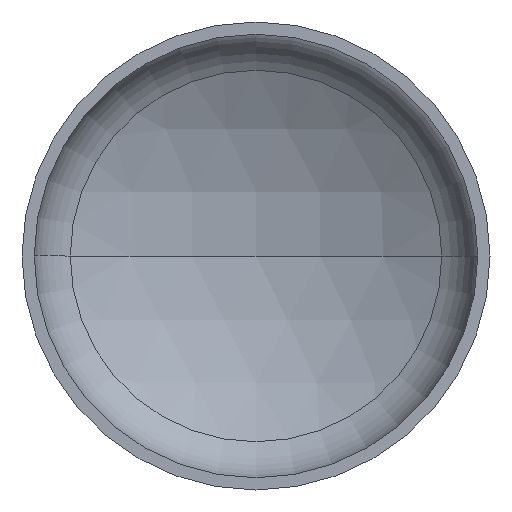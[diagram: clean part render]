
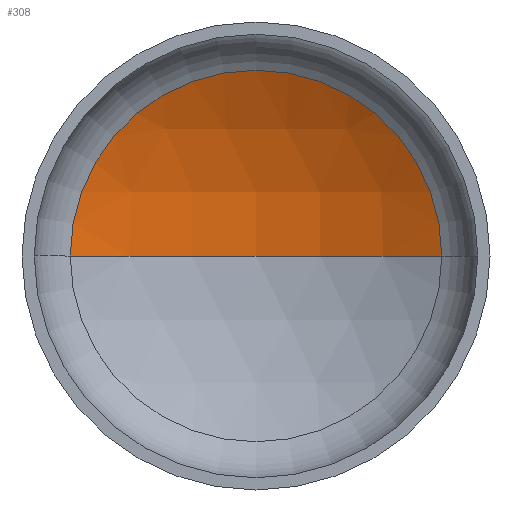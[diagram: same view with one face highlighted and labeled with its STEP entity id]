
A CAD part, front view. The second image highlights one B-rep face of the part: STEP entity #308.
In plain terms, the highlighted spherical face has radius 1440 mm.
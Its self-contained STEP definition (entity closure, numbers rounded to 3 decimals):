
#1 = SPHERICAL_SURFACE ( 'NONE', #57, 1440. ) ;
#4 = VERTEX_POINT ( 'NONE', #252 ) ;
#14 = AXIS2_PLACEMENT_3D ( 'NONE', #297, #153, #322 ) ;
#15 = AXIS2_PLACEMENT_3D ( 'NONE', #203, #334, #307 ) ;
#21 = EDGE_LOOP ( 'NONE', ( #47, #44, #404 ) ) ;
#44 = ORIENTED_EDGE ( 'NONE', *, *, #378, .T. ) ;
#47 = ORIENTED_EDGE ( 'NONE', *, *, #364, .F. ) ;
#57 = AXIS2_PLACEMENT_3D ( 'NONE', #249, #256, #255 ) ;
#82 = VERTEX_POINT ( 'NONE', #240 ) ;
#131 = VERTEX_POINT ( 'NONE', #287 ) ;
#152 = CIRCLE ( 'NONE', #15, 1440. ) ;
#153 = DIRECTION ( 'NONE',  ( 0., 0., -1. ) ) ;
#203 = CARTESIAN_POINT ( 'NONE',  ( 0., -861.504, 0. ) ) ;
#228 = DIRECTION ( 'NONE',  ( 0., -1., 0. ) ) ;
#240 = CARTESIAN_POINT ( 'NONE',  ( -714.438, 388.767, 0. ) ) ;
#249 = CARTESIAN_POINT ( 'NONE',  ( 0., -861.504, 0. ) ) ;
#252 = CARTESIAN_POINT ( 'NONE',  ( 714.438, 388.767, 0. ) ) ;
#255 = DIRECTION ( 'NONE',  ( -1., 0., 0. ) ) ;
#256 = DIRECTION ( 'NONE',  ( 0., 0., -1. ) ) ;
#287 = CARTESIAN_POINT ( 'NONE',  ( 0., 578.496, 0. ) ) ;
#297 = CARTESIAN_POINT ( 'NONE',  ( 0., -861.504, 0. ) ) ;
#303 = FACE_OUTER_BOUND ( 'NONE', #21, .T. ) ;
#307 = DIRECTION ( 'NONE',  ( 1., 0., 0. ) ) ;
#308 = ADVANCED_FACE ( 'NONE', ( #303 ), #1, .F. ) ;
#314 = DIRECTION ( 'NONE',  ( 1., 0., 0. ) ) ;
#322 = DIRECTION ( 'NONE',  ( -1., 0., 0. ) ) ;
#332 = CIRCLE ( 'NONE', #406, 714.438 ) ;
#334 = DIRECTION ( 'NONE',  ( 0., 0., 1. ) ) ;
#345 = CIRCLE ( 'NONE', #14, 1440. ) ;
#364 = EDGE_CURVE ( 'NONE', #131, #82, #152, .T. ) ;
#371 = CARTESIAN_POINT ( 'NONE',  ( 0., 388.767, 0. ) ) ;
#378 = EDGE_CURVE ( 'NONE', #131, #4, #345, .T. ) ;
#387 = EDGE_CURVE ( 'NONE', #4, #82, #332, .T. ) ;
#404 = ORIENTED_EDGE ( 'NONE', *, *, #387, .T. ) ;
#406 = AXIS2_PLACEMENT_3D ( 'NONE', #371, #228, #314 ) ;
